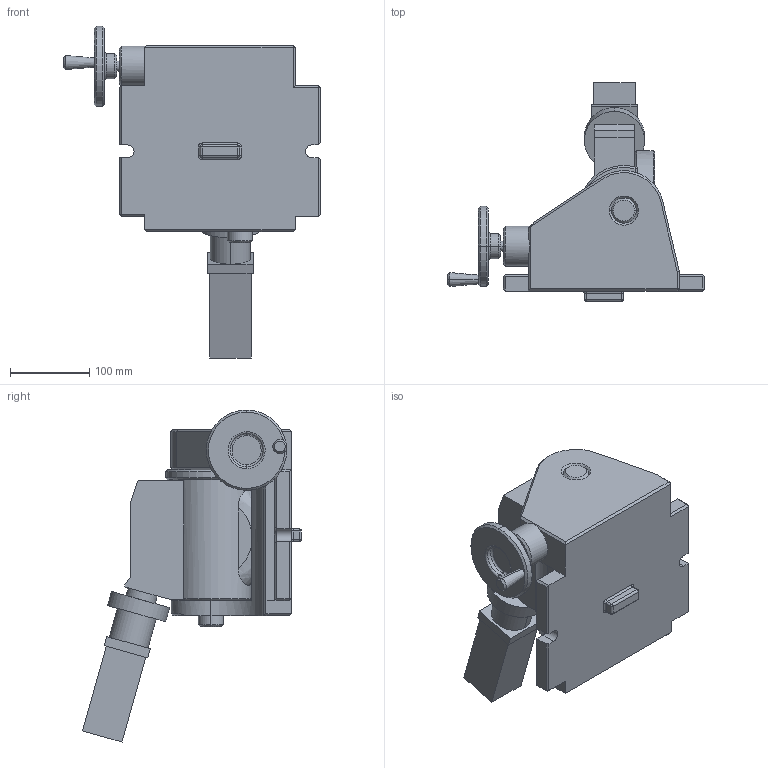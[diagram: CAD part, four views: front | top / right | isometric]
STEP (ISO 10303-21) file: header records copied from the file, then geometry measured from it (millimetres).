
FILE_DESCRIPTION (( 'STEP AP214' ), '1' );
FILE_NAME ('31847 6-INCH TILTING TABLE VERTICLE.STEP', '2013-11-05T16:59:08', ( '' ), ( '' ), 'SwSTEP 2.0', 'SolidWorks 2012', '' );
FILE_SCHEMA (( 'AUTOMOTIVE_DESIGN' ));
Length unit declared in the file: inch
Products named in the file (4): 31847 6-INCH TILTING TABLE VERTICLE; 31847 TABLE BASE; 31847 TILTING MECHANISM; 31847 ROTARY PLATE
Assembly tree (3 placements, depth 2):
  31847 6-INCH TILTING TABLE VERTICLE
    31847 TABLE BASE
    31847 TILTING MECHANISM
    31847 ROTARY PLATE
Bounding box: 324.23 x 276.5 x 419.51 mm (x, y, z)
Volume: 5191215 mm3; surface area: 448509.1 mm2
Topology: 3 solids, 3 shells, 330 faces, 842 edges, 528 vertices
Faces by surface type: plane 181, cylinder 85, cone 51, bspline 13
Entity records: 11130 total; most frequent: CARTESIAN_POINT 2971, DIRECTION 1680, ORIENTED_EDGE 1676, EDGE_CURVE 838, AXIS2_PLACEMENT_3D 576, VECTOR 528, LINE 528, VERTEX_POINT 528
